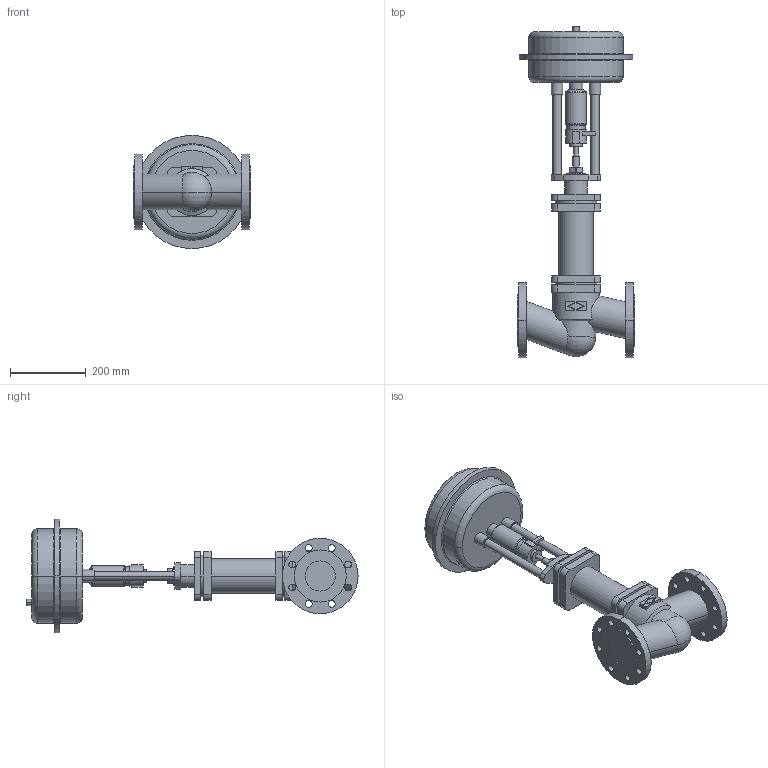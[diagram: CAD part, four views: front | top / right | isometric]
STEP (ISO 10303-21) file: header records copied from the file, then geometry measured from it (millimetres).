
FILE_DESCRIPTION(('OneSpaceDesigner STEP Export'),'2;1');
FILE_NAME('c000002090.stp','2005-12-12T11:51:27',(''),(''),'OneSpace Designer STEP processor for AP203 (Solid Model)','OneSpace Designer 13.20A 18-Aug-2005 (C) CoCreate Software GmbH','');
FILE_SCHEMA(('CONFIG_CONTROL_DESIGN'));
Length unit declared in the file: millimetre
Products named in the file (1): 1
Bounding box: 310 x 879.3 x 300 mm (x, y, z)
Volume: 14130212.7 mm3; surface area: 737785 mm2
Topology: 1 solids, 1 shells, 234 faces, 580 edges, 378 vertices
Faces by surface type: cylinder 120, plane 90, torus 16, cone 6, sphere 2
Entity records: 6628 total; most frequent: CARTESIAN_POINT 1322, ORIENTED_EDGE 1156, DIRECTION 989, EDGE_CURVE 578, VERTEX_POINT 378, AXIS2_PLACEMENT_3D 356, EDGE_LOOP 302, VECTOR 277
